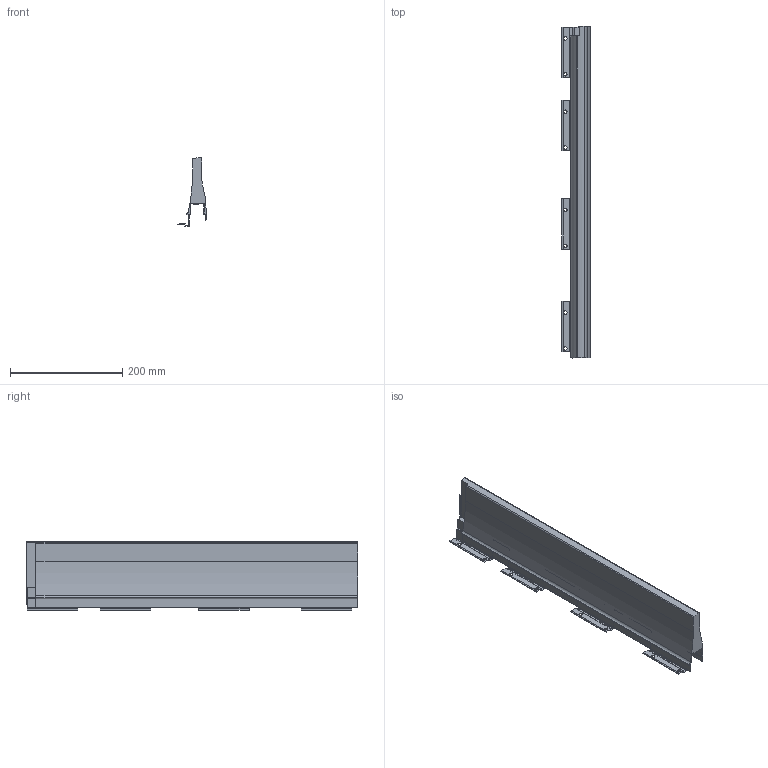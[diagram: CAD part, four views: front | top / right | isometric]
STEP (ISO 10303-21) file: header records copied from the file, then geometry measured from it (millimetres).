
FILE_DESCRIPTION (( 'STEP AP214' ), '1' );
FILE_NAME ('XP Standard Dekorseite H127 NL600 RE .step', '2010-09-21T09:46:17', ( 'grass' ), ( '' ), 'SwSTEP 2.0', 'SolidWorks 2010', '' );
FILE_SCHEMA (( 'AUTOMOTIVE_DESIGN' ));
Length unit declared in the file: millimetre
Products named in the file (1): XP Standard Dekorseite H127 NL600 RE 
Bounding box: 50.01 x 591.5 x 122 mm (x, y, z)
Volume: 1026707.1 mm3; surface area: 234615.6 mm2
Topology: 1 solids, 1 shells, 163 faces, 480 edges, 312 vertices
Faces by surface type: plane 129, cylinder 34
Entity records: 5434 total; most frequent: ORIENTED_EDGE 960, CARTESIAN_POINT 956, DIRECTION 878, EDGE_CURVE 480, LINE 410, VECTOR 410, VERTEX_POINT 312, AXIS2_PLACEMENT_3D 234
